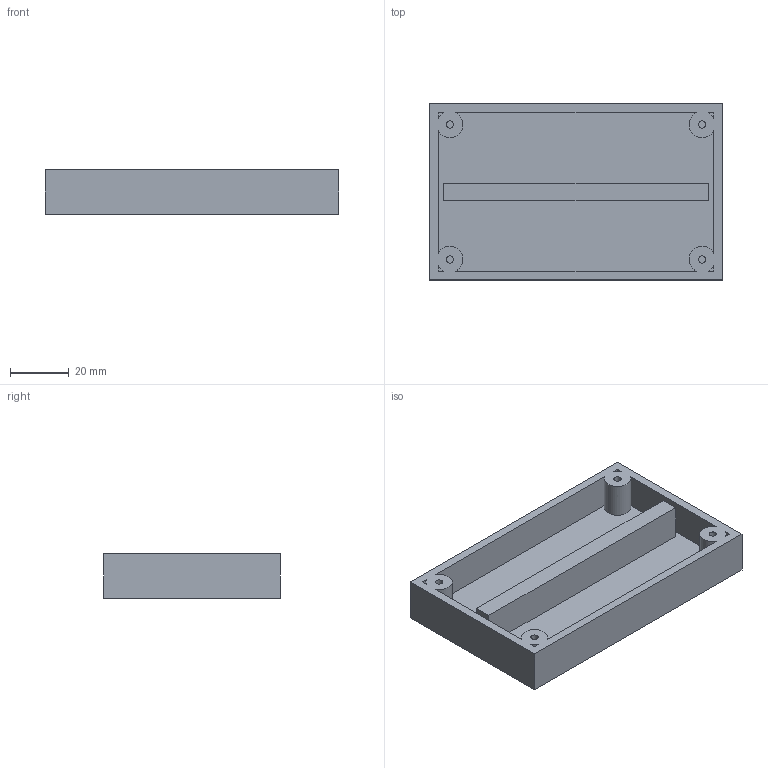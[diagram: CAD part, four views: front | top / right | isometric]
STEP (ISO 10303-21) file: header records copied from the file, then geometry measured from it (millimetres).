
FILE_DESCRIPTION(('Open CASCADE Model'),'2;1');
FILE_NAME('Open CASCADE Shape Model','2026-10-21T16:53:53',('Author'),( 'Open CASCADE'),'Open CASCADE STEP processor 7.9','Open CASCADE 7.9' ,'Unknown');
FILE_SCHEMA(('AUTOMOTIVE_DESIGN { 1 0 10303 214 1 1 1 1 }'));
Length unit declared in the file: millimetre
Products named in the file (1): Open CASCADE STEP translator 7.9 26
Bounding box: 100 x 60 x 15 mm (x, y, z)
Volume: 38272.2 mm3; surface area: 23551.8 mm2
Topology: 1 solids, 1 shells, 44 faces, 96 edges, 64 vertices
Faces by surface type: plane 32, cylinder 12
Full cylindrical faces by diameter (mm): 2.5 x4
Entity records: 2498 total; most frequent: CARTESIAN_POINT 469, DIRECTION 390, LINE 240, VECTOR 240, ORIENTED_EDGE 192, PCURVE 192, DEFINITIONAL_REPRESENTATION 192, EDGE_CURVE 96
